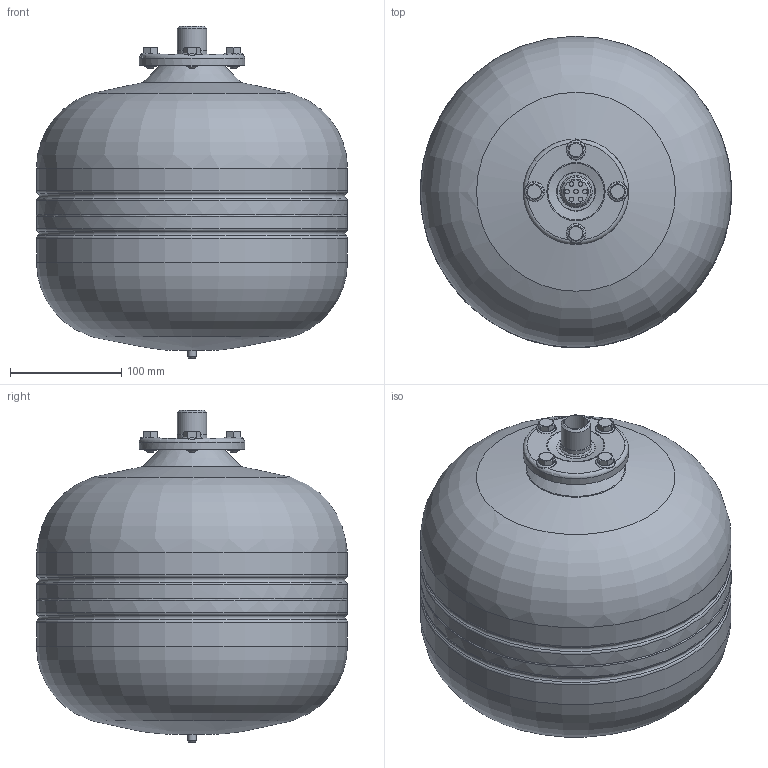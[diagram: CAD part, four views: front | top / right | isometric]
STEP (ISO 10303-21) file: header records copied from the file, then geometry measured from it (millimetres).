
FILE_DESCRIPTION(('STEP AP214'), '1');
FILE_NAME('WRV-12', '', ('UNSPECIFIED'), ('UNSPECIFIED'), 'ASCON STEP Converter 1.3', 'ASCON Math Kernel', '');
FILE_SCHEMA(('AUTOMOTIVE_DESIGN { 1 0 10303 214 3 1 1}'));
Length unit declared in the file: millimetre
Bounding box: 280.53 x 280.48 x 299 mm (x, y, z)
Volume: 12519082.6 mm3; surface area: 287085.5 mm2
Topology: 1 solids, 9 shells, 225 faces, 542 edges, 358 vertices
Faces by surface type: plane 118, cylinder 37, cone 27, torus 25, bspline 16, sphere 2
Full cylindrical faces by diameter (mm): 4 x7, 5.5 x1, 8 x9, 9 x4, 10.6 x4, 21.2 x1, 26.442 x1, 26.8 x1, 95 x1, 280 x4
Entity records: 12606 total; most frequent: CARTESIAN_POINT 5756, DIRECTION 1068, ORIENTED_EDGE 940, AXIS2_PLACEMENT_3D 483, EDGE_CURVE 470, VERTEX_POINT 356, EDGE_LOOP 326, FACE_BOUND 302
